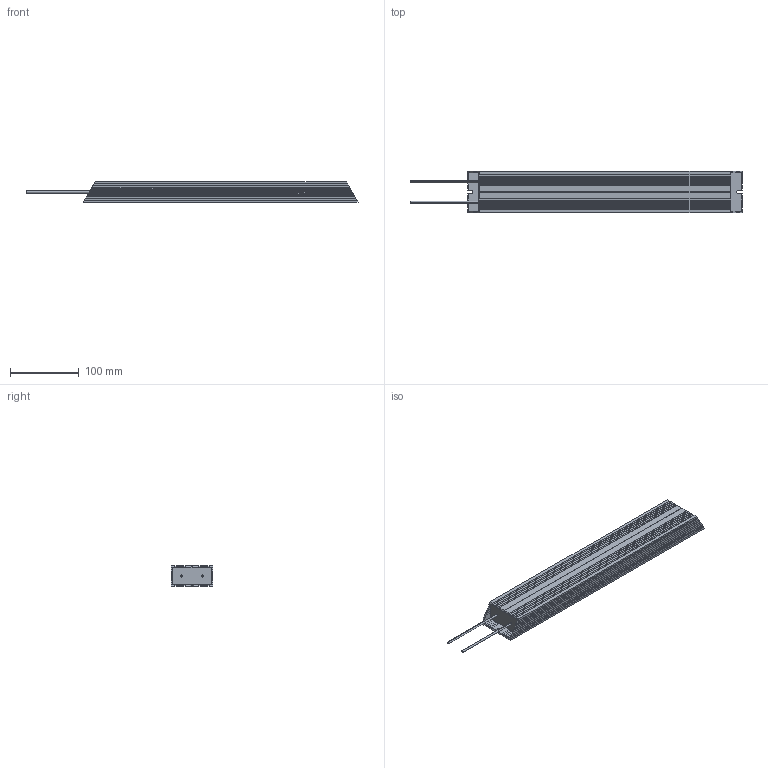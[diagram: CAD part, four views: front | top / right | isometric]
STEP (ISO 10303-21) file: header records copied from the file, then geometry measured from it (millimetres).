
FILE_DESCRIPTION (( 'STEP AP203' ), '1' );
FILE_NAME ('Ðåçèñòîð òîðìîçíîé _ IBRA-180-1000-IP54.STEP', '2025-03-26T14:13:13', ( '' ), ( '' ), 'SwSTEP 2.0', 'SolidWorks 2021', '' );
FILE_SCHEMA (( 'CONFIG_CONTROL_DESIGN' ));
Length unit declared in the file: millimetre
Products named in the file (1): Ðåçèñòîð òîðìîçíîé _ IBRA-180-1000-IP54
Bounding box: 483.83 x 60 x 30 mm (x, y, z)
Volume: 660449.3 mm3; surface area: 114276 mm2
Topology: 1 solids, 1 shells, 216 faces, 635 edges, 423 vertices
Faces by surface type: plane 152, cylinder 64
Entity records: 7135 total; most frequent: CARTESIAN_POINT 1625, ORIENTED_EDGE 1270, DIRECTION 970, EDGE_CURVE 635, VECTOR 506, LINE 506, VERTEX_POINT 423, AXIS2_PLACEMENT_3D 232
